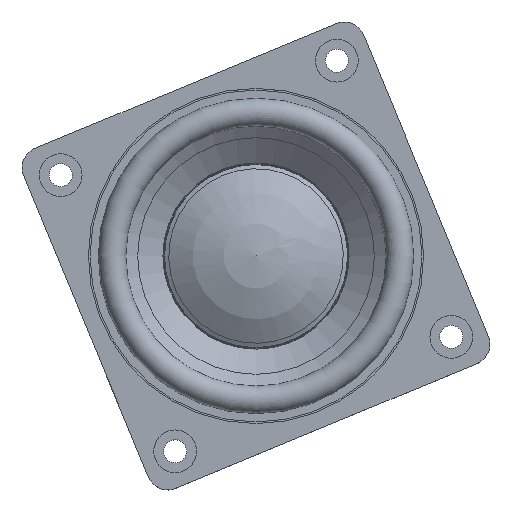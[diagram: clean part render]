
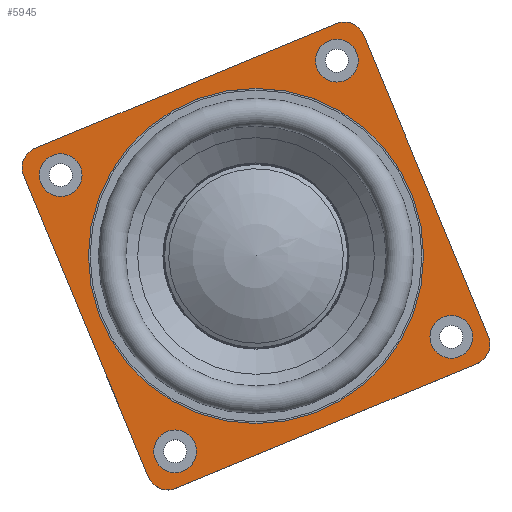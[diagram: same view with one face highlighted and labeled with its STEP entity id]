
A CAD part, top view. The second image highlights one B-rep face of the part: STEP entity #5945.
In plain terms, the highlighted planar face has unit normal (0, 0, 1).
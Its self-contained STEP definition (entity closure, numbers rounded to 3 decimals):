
#477=FACE_BOUND('',#969,.T.);
#478=FACE_BOUND('',#970,.T.);
#479=FACE_BOUND('',#971,.T.);
#480=FACE_BOUND('',#972,.T.);
#481=FACE_BOUND('',#973,.T.);
#618=FACE_OUTER_BOUND('',#968,.T.);
#968=EDGE_LOOP('',(#4288,#4289,#4290,#4291,#4292,#4293,#4294,#4295));
#969=EDGE_LOOP('',(#4296));
#970=EDGE_LOOP('',(#4297));
#971=EDGE_LOOP('',(#4298));
#972=EDGE_LOOP('',(#4299));
#973=EDGE_LOOP('',(#4300));
#1394=LINE('',#9450,#1756);
#1397=LINE('',#9461,#1759);
#1401=LINE('',#9473,#1763);
#1405=LINE('',#9485,#1767);
#1756=VECTOR('',#7438,49.65);
#1759=VECTOR('',#7449,49.65);
#1763=VECTOR('',#7461,49.65);
#1767=VECTOR('',#7473,49.65);
#2049=CIRCLE('',#6380,3.25);
#2053=CIRCLE('',#6387,3.25);
#2057=CIRCLE('',#6394,3.25);
#2061=CIRCLE('',#6401,3.25);
#2063=CIRCLE('',#6405,3.175);
#2065=CIRCLE('',#6409,3.175);
#2067=CIRCLE('',#6413,3.175);
#2069=CIRCLE('',#6417,3.175);
#2070=CIRCLE('',#6419,25.5);
#2478=VERTEX_POINT('',#9400);
#2482=VERTEX_POINT('',#9413);
#2486=VERTEX_POINT('',#9426);
#2490=VERTEX_POINT('',#9439);
#2491=VERTEX_POINT('',#9443);
#2494=VERTEX_POINT('',#9448);
#2496=VERTEX_POINT('',#9454);
#2497=VERTEX_POINT('',#9458);
#2500=VERTEX_POINT('',#9466);
#2501=VERTEX_POINT('',#9470);
#2504=VERTEX_POINT('',#9478);
#2505=VERTEX_POINT('',#9482);
#2507=VERTEX_POINT('',#9491);
#3153=EDGE_CURVE('',#2478,#2478,#2049,.T.);
#3159=EDGE_CURVE('',#2482,#2482,#2053,.T.);
#3165=EDGE_CURVE('',#2486,#2486,#2057,.T.);
#3171=EDGE_CURVE('',#2490,#2490,#2061,.T.);
#3175=EDGE_CURVE('',#2491,#2494,#1394,.T.);
#3178=EDGE_CURVE('',#2494,#2496,#2063,.T.);
#3180=EDGE_CURVE('',#2496,#2497,#1397,.T.);
#3184=EDGE_CURVE('',#2497,#2500,#2065,.T.);
#3186=EDGE_CURVE('',#2500,#2501,#1401,.T.);
#3190=EDGE_CURVE('',#2501,#2504,#2067,.T.);
#3192=EDGE_CURVE('',#2504,#2505,#1405,.T.);
#3195=EDGE_CURVE('',#2505,#2491,#2069,.T.);
#3196=EDGE_CURVE('',#2507,#2507,#2070,.T.);
#4288=ORIENTED_EDGE('',*,*,#3195,.T.);
#4289=ORIENTED_EDGE('',*,*,#3175,.T.);
#4290=ORIENTED_EDGE('',*,*,#3178,.T.);
#4291=ORIENTED_EDGE('',*,*,#3180,.T.);
#4292=ORIENTED_EDGE('',*,*,#3184,.T.);
#4293=ORIENTED_EDGE('',*,*,#3186,.T.);
#4294=ORIENTED_EDGE('',*,*,#3190,.T.);
#4295=ORIENTED_EDGE('',*,*,#3192,.T.);
#4296=ORIENTED_EDGE('',*,*,#3196,.F.);
#4297=ORIENTED_EDGE('',*,*,#3171,.F.);
#4298=ORIENTED_EDGE('',*,*,#3165,.F.);
#4299=ORIENTED_EDGE('',*,*,#3159,.F.);
#4300=ORIENTED_EDGE('',*,*,#3153,.F.);
#5754=PLANE('',#6418);
#5945=ADVANCED_FACE('',(#618,#477,#478,#479,#480,#481),#5754,.T.);
#6380=AXIS2_PLACEMENT_3D('',#9402,#7383,#7384);
#6387=AXIS2_PLACEMENT_3D('',#9415,#7399,#7400);
#6394=AXIS2_PLACEMENT_3D('',#9428,#7415,#7416);
#6401=AXIS2_PLACEMENT_3D('',#9441,#7431,#7432);
#6405=AXIS2_PLACEMENT_3D('',#9456,#7444,#7445);
#6409=AXIS2_PLACEMENT_3D('',#9468,#7456,#7457);
#6413=AXIS2_PLACEMENT_3D('',#9480,#7468,#7469);
#6417=AXIS2_PLACEMENT_3D('',#9489,#7479,#7480);
#6418=AXIS2_PLACEMENT_3D('',#9490,#7481,#7482);
#6419=AXIS2_PLACEMENT_3D('',#9492,#7483,#7484);
#7383=DIRECTION('center_axis',(0.,0.,1.));
#7384=DIRECTION('ref_axis',(0.,-1.,0.));
#7399=DIRECTION('center_axis',(0.,0.,1.));
#7400=DIRECTION('ref_axis',(-1.,0.,0.));
#7415=DIRECTION('center_axis',(0.,0.,1.));
#7416=DIRECTION('ref_axis',(0.,1.,0.));
#7431=DIRECTION('center_axis',(0.,0.,1.));
#7432=DIRECTION('ref_axis',(1.,0.,0.));
#7438=DIRECTION('',(-0.924,-0.383,0.));
#7444=DIRECTION('center_axis',(0.,0.,1.));
#7445=DIRECTION('ref_axis',(-0.383,0.924,0.));
#7449=DIRECTION('',(0.383,-0.924,0.));
#7456=DIRECTION('center_axis',(0.,0.,1.));
#7457=DIRECTION('ref_axis',(-0.924,-0.383,0.));
#7461=DIRECTION('',(0.924,0.383,0.));
#7468=DIRECTION('center_axis',(0.,0.,1.));
#7469=DIRECTION('ref_axis',(0.383,-0.924,0.));
#7473=DIRECTION('',(-0.383,0.924,0.));
#7479=DIRECTION('center_axis',(0.,0.,1.));
#7480=DIRECTION('ref_axis',(0.924,0.383,0.));
#7481=DIRECTION('center_axis',(0.,0.,1.));
#7482=DIRECTION('ref_axis',(1.,0.,0.));
#7483=DIRECTION('center_axis',(0.,0.,1.));
#7484=DIRECTION('ref_axis',(1.,0.,0.));
#9400=CARTESIAN_POINT('',(29.724,-9.062,3.5));
#9402=CARTESIAN_POINT('Origin',(29.724,-12.312,3.5));
#9413=CARTESIAN_POINT('',(-9.062,-29.724,3.5));
#9415=CARTESIAN_POINT('Origin',(-12.312,-29.724,3.5));
#9426=CARTESIAN_POINT('',(-29.724,9.062,3.5));
#9428=CARTESIAN_POINT('Origin',(-29.724,12.312,3.5));
#9439=CARTESIAN_POINT('',(9.062,29.724,3.5));
#9441=CARTESIAN_POINT('Origin',(12.312,29.724,3.5));
#9443=CARTESIAN_POINT('',(12.22,35.369,3.5));
#9448=CARTESIAN_POINT('',(-33.65,16.369,3.5));
#9450=CARTESIAN_POINT('',(12.22,35.369,3.5));
#9454=CARTESIAN_POINT('',(-35.369,12.22,3.5));
#9456=CARTESIAN_POINT('Origin',(-32.435,13.435,3.5));
#9458=CARTESIAN_POINT('',(-16.369,-33.65,3.5));
#9461=CARTESIAN_POINT('',(-35.369,12.22,3.5));
#9466=CARTESIAN_POINT('',(-12.22,-35.369,3.5));
#9468=CARTESIAN_POINT('Origin',(-13.435,-32.435,3.5));
#9470=CARTESIAN_POINT('',(33.65,-16.369,3.5));
#9473=CARTESIAN_POINT('',(-12.22,-35.369,3.5));
#9478=CARTESIAN_POINT('',(35.369,-12.22,3.5));
#9480=CARTESIAN_POINT('Origin',(32.435,-13.435,3.5));
#9482=CARTESIAN_POINT('',(16.369,33.65,3.5));
#9485=CARTESIAN_POINT('',(35.369,-12.22,3.5));
#9489=CARTESIAN_POINT('Origin',(13.435,32.435,3.5));
#9490=CARTESIAN_POINT('Origin',(0.,0.,3.5));
#9491=CARTESIAN_POINT('',(-25.5,0.,3.5));
#9492=CARTESIAN_POINT('Origin',(0.,0.,3.5));
